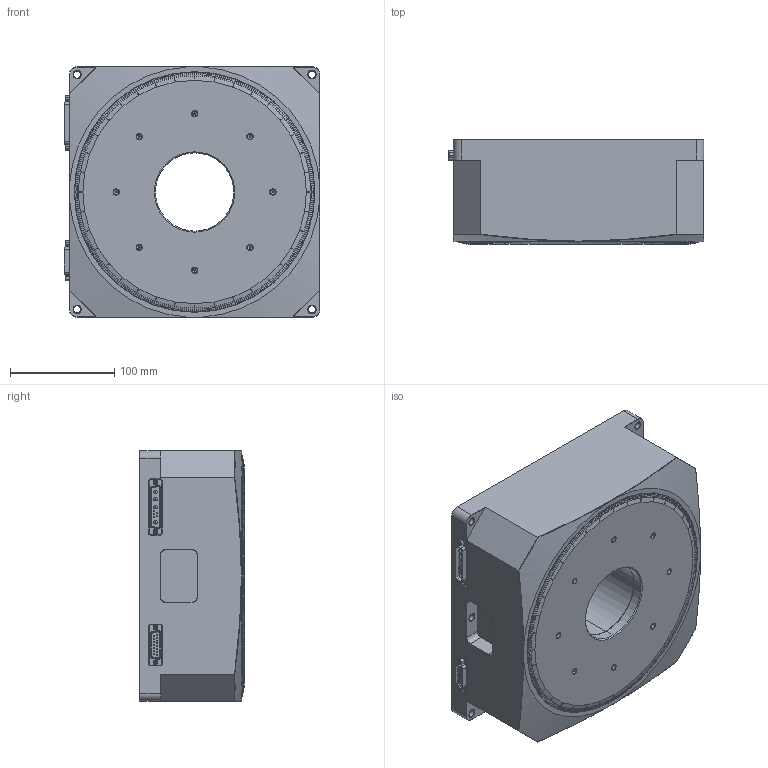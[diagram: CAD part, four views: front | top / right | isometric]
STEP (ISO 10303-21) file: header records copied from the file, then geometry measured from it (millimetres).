
FILE_DESCRIPTION((''),'2;1');
FILE_NAME('WEB_DT240_243826_ASM','2018-04-09T',('Profile'),(''),'PRO/ENGINEER BY PARAMETRIC TECHNOLOGY CORPORATION, 2015280','PRO/ENGINEER BY PARAMETRIC TECHNOLOGY CORPORATION, 2015280','');
FILE_SCHEMA(('AUTOMOTIVE_DESIGN { 1 0 10303 214 1 1 1 1 }'));
Products named in the file (7): WEB_DT240_BASIS_______00011197; WEB_DT240_TELLER______00011198; 9971946_9W4_STECKER; 9970904_15POL_STECKER; 789000_010_10_LOGO_30X24X1; KT_SECHSKANTBOLZEN_F-GSCH1-5; WEB_DT240_243826_ASM
Assembly tree (9 placements, depth 2):
  WEB_DT240_243826_ASM
    WEB_DT240_BASIS_______00011197
    WEB_DT240_TELLER______00011198
    9971946_9W4_STECKER
    9970904_15POL_STECKER
    789000_010_10_LOGO_30X24X1
    KT_SECHSKANTBOLZEN_F-GSCH1-5  x4
Bounding box: 245.05 x 100 x 240 mm (x, y, z)
Volume: 5008983.7 mm3; surface area: 327798.5 mm2
Topology: 9 solids, 31 shells, 3479 faces, 8639 edges, 5680 vertices
Faces by surface type: plane 2645, cylinder 373, extrusion 272, torus 100, cone 65, bspline 24
Entity records: 131178 total; most frequent: CARTESIAN_POINT 27281, ORIENTED_EDGE 16874, DIRECTION 14538, EDGE_CURVE 8469, PRESENTATION_STYLE_ASSIGNMENT 7513, STYLED_ITEM 7495, CURVE_STYLE 7434, VECTOR 6406
